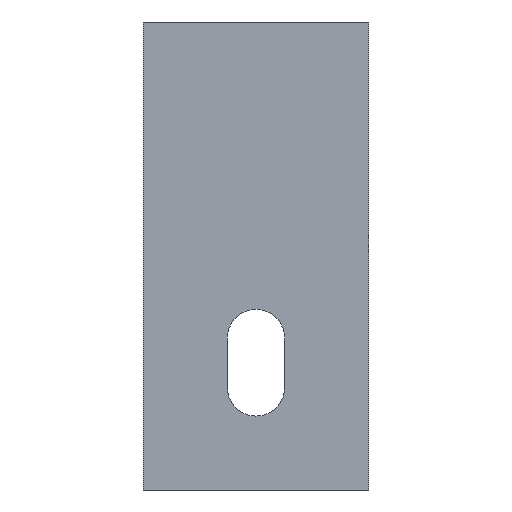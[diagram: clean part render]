
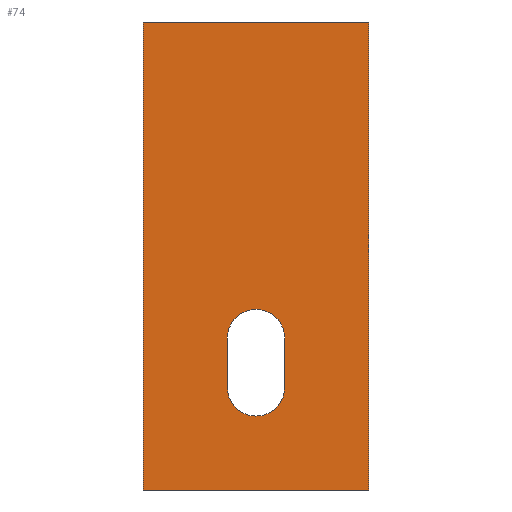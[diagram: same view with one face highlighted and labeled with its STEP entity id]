
A CAD part, front view. The second image highlights one B-rep face of the part: STEP entity #74.
In plain terms, the highlighted planar face has unit normal (0, -1, 0).
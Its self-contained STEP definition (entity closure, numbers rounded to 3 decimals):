
#1 = DIRECTION ( 'NONE',  ( 0., 0., -1. ) ) ;
#2 = CARTESIAN_POINT ( 'NONE',  ( 27.5, 0., -77. ) ) ;
#3 = DIRECTION ( 'NONE',  ( 0., 0., 1. ) ) ;
#6 = ORIENTED_EDGE ( 'NONE', *, *, #353, .T. ) ;
#20 = ORIENTED_EDGE ( 'NONE', *, *, #79, .T. ) ;
#23 = AXIS2_PLACEMENT_3D ( 'NONE', #24, #248, #118 ) ;
#24 = CARTESIAN_POINT ( 'NONE',  ( 27.5, 0., -89. ) ) ;
#31 = VERTEX_POINT ( 'NONE', #178 ) ;
#34 = EDGE_LOOP ( 'NONE', ( #162, #6, #20, #83, #188 ) ) ;
#35 = CARTESIAN_POINT ( 'NONE',  ( 34.5, 0., -89. ) ) ;
#38 = FACE_BOUND ( 'NONE', #34, .T. ) ;
#49 = VECTOR ( 'NONE', #279, 1000. ) ;
#63 = ORIENTED_EDGE ( 'NONE', *, *, #273, .F. ) ;
#64 = CARTESIAN_POINT ( 'NONE',  ( 0., 0., 0. ) ) ;
#65 = EDGE_CURVE ( 'NONE', #412, #407, #202, .T. ) ;
#74 = ADVANCED_FACE ( 'NONE', ( #128, #38 ), #391, .T. ) ;
#75 = AXIS2_PLACEMENT_3D ( 'NONE', #96, #323, #249 ) ;
#79 = EDGE_CURVE ( 'NONE', #197, #394, #88, .T. ) ;
#80 = CIRCLE ( 'NONE', #23, 7. ) ;
#83 = ORIENTED_EDGE ( 'NONE', *, *, #89, .T. ) ;
#88 = CIRCLE ( 'NONE', #75, 7. ) ;
#89 = EDGE_CURVE ( 'NONE', #394, #160, #406, .T. ) ;
#96 = CARTESIAN_POINT ( 'NONE',  ( 27.5, 0., -89. ) ) ;
#100 = VECTOR ( 'NONE', #262, 1000. ) ;
#109 = VECTOR ( 'NONE', #397, 1000. ) ;
#111 = ORIENTED_EDGE ( 'NONE', *, *, #235, .F. ) ;
#118 = DIRECTION ( 'NONE',  ( 0., 0., -1. ) ) ;
#128 = FACE_OUTER_BOUND ( 'NONE', #307, .T. ) ;
#145 = CARTESIAN_POINT ( 'NONE',  ( 55., 0., -114. ) ) ;
#153 = CARTESIAN_POINT ( 'NONE',  ( 0., 0., 0. ) ) ;
#160 = VERTEX_POINT ( 'NONE', #260 ) ;
#162 = ORIENTED_EDGE ( 'NONE', *, *, #267, .T. ) ;
#164 = CIRCLE ( 'NONE', #408, 7. ) ;
#173 = VERTEX_POINT ( 'NONE', #362 ) ;
#176 = LINE ( 'NONE', #35, #49 ) ;
#178 = CARTESIAN_POINT ( 'NONE',  ( 34.5, 0., -89. ) ) ;
#186 = CARTESIAN_POINT ( 'NONE',  ( 0., 0., -114. ) ) ;
#187 = CARTESIAN_POINT ( 'NONE',  ( 55., 0., 0. ) ) ;
#188 = ORIENTED_EDGE ( 'NONE', *, *, #398, .T. ) ;
#192 = EDGE_CURVE ( 'NONE', #280, #412, #403, .T. ) ;
#197 = VERTEX_POINT ( 'NONE', #335 ) ;
#202 = LINE ( 'NONE', #384, #240 ) ;
#213 = DIRECTION ( 'NONE',  ( 0., 0., 1. ) ) ;
#215 = DIRECTION ( 'NONE',  ( 0., 0., -1. ) ) ;
#220 = DIRECTION ( 'NONE',  ( 0., 0., -1. ) ) ;
#222 = CARTESIAN_POINT ( 'NONE',  ( 0., 0., 0. ) ) ;
#231 = VECTOR ( 'NONE', #3, 1000. ) ;
#235 = EDGE_CURVE ( 'NONE', #407, #259, #292, .T. ) ;
#240 = VECTOR ( 'NONE', #213, 1000. ) ;
#245 = CARTESIAN_POINT ( 'NONE',  ( 55., 0., 0. ) ) ;
#248 = DIRECTION ( 'NONE',  ( 0., 1., 0. ) ) ;
#249 = DIRECTION ( 'NONE',  ( 0., 0., -1. ) ) ;
#251 = CARTESIAN_POINT ( 'NONE',  ( 20.5, 0., -89. ) ) ;
#254 = DIRECTION ( 'NONE',  ( 0., -1., 0. ) ) ;
#259 = VERTEX_POINT ( 'NONE', #187 ) ;
#260 = CARTESIAN_POINT ( 'NONE',  ( 20.5, 0., -77. ) ) ;
#262 = DIRECTION ( 'NONE',  ( 1., 0., 0. ) ) ;
#267 = EDGE_CURVE ( 'NONE', #173, #31, #176, .T. ) ;
#273 = EDGE_CURVE ( 'NONE', #259, #280, #300, .T. ) ;
#279 = DIRECTION ( 'NONE',  ( 0., 0., -1. ) ) ;
#280 = VERTEX_POINT ( 'NONE', #145 ) ;
#292 = LINE ( 'NONE', #64, #100 ) ;
#300 = LINE ( 'NONE', #245, #402 ) ;
#307 = EDGE_LOOP ( 'NONE', ( #333, #393, #63, #111 ) ) ;
#323 = DIRECTION ( 'NONE',  ( 0., 1., 0. ) ) ;
#325 = AXIS2_PLACEMENT_3D ( 'NONE', #222, #254, #1 ) ;
#327 = CARTESIAN_POINT ( 'NONE',  ( 20.5, 0., -89. ) ) ;
#333 = ORIENTED_EDGE ( 'NONE', *, *, #65, .F. ) ;
#335 = CARTESIAN_POINT ( 'NONE',  ( 27.5, 0., -96. ) ) ;
#353 = EDGE_CURVE ( 'NONE', #31, #197, #80, .T. ) ;
#361 = CARTESIAN_POINT ( 'NONE',  ( 0., 0., -114. ) ) ;
#362 = CARTESIAN_POINT ( 'NONE',  ( 34.5, 0., -77. ) ) ;
#384 = CARTESIAN_POINT ( 'NONE',  ( 0., 0., 0. ) ) ;
#391 = PLANE ( 'NONE',  #325 ) ;
#392 = DIRECTION ( 'NONE',  ( 0., 1., 0. ) ) ;
#393 = ORIENTED_EDGE ( 'NONE', *, *, #192, .F. ) ;
#394 = VERTEX_POINT ( 'NONE', #327 ) ;
#397 = DIRECTION ( 'NONE',  ( -1., 0., 0. ) ) ;
#398 = EDGE_CURVE ( 'NONE', #160, #173, #164, .T. ) ;
#402 = VECTOR ( 'NONE', #215, 1000. ) ;
#403 = LINE ( 'NONE', #361, #109 ) ;
#406 = LINE ( 'NONE', #251, #231 ) ;
#407 = VERTEX_POINT ( 'NONE', #153 ) ;
#408 = AXIS2_PLACEMENT_3D ( 'NONE', #2, #392, #220 ) ;
#412 = VERTEX_POINT ( 'NONE', #186 ) ;
